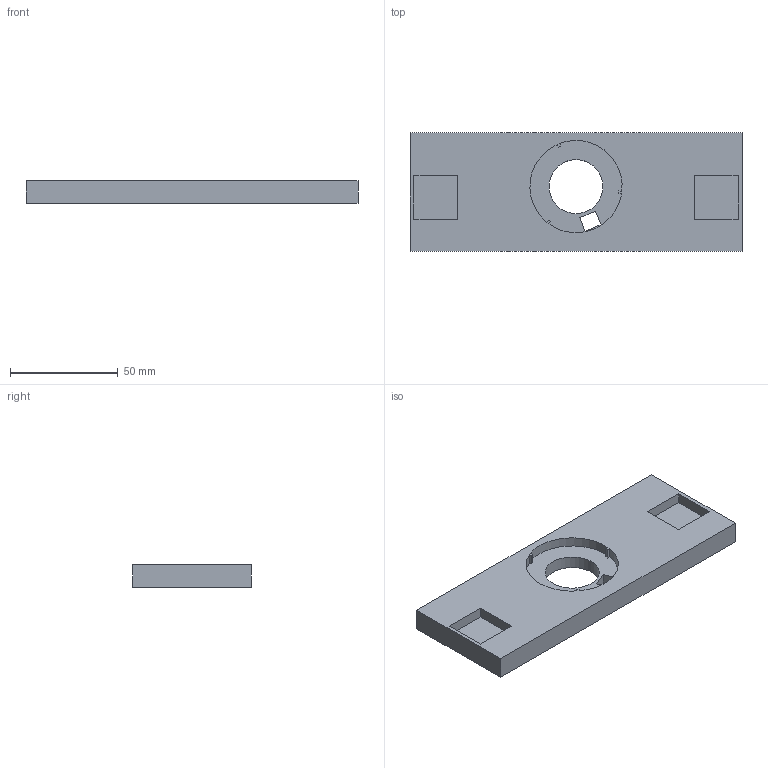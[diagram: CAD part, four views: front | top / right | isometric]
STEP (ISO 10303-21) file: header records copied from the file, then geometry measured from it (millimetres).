
FILE_DESCRIPTION(('Open CASCADE Model'),'2;1');
FILE_NAME('Open CASCADE Shape Model','2026-10-23T08:22:13',('Author'),( 'Open CASCADE'),'Open CASCADE STEP processor 7.9','Open CASCADE 7.9' ,'Unknown');
FILE_SCHEMA(('AUTOMOTIVE_DESIGN { 1 0 10303 214 1 1 1 1 }'));
Length unit declared in the file: millimetre
Products named in the file (1): Open CASCADE STEP translator 7.9 18
Bounding box: 154 x 55 x 10.6 mm (x, y, z)
Volume: 75715.5 mm3; surface area: 22492.7 mm2
Topology: 1 solids, 1 shells, 42 faces, 99 edges, 66 vertices
Faces by surface type: plane 34, cylinder 8
Full cylindrical faces by diameter (mm): 1.8 x4, 25 x1
Entity records: 2507 total; most frequent: CARTESIAN_POINT 412, DIRECTION 398, LINE 265, VECTOR 265, ORIENTED_EDGE 198, PCURVE 198, DEFINITIONAL_REPRESENTATION 198, EDGE_CURVE 99
